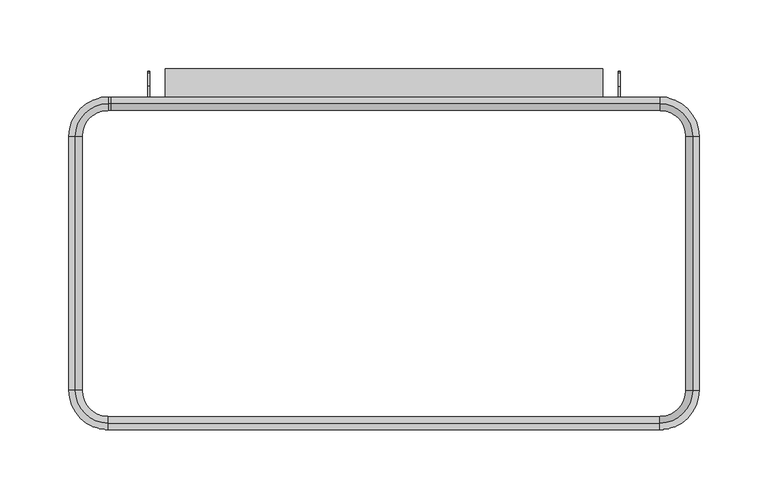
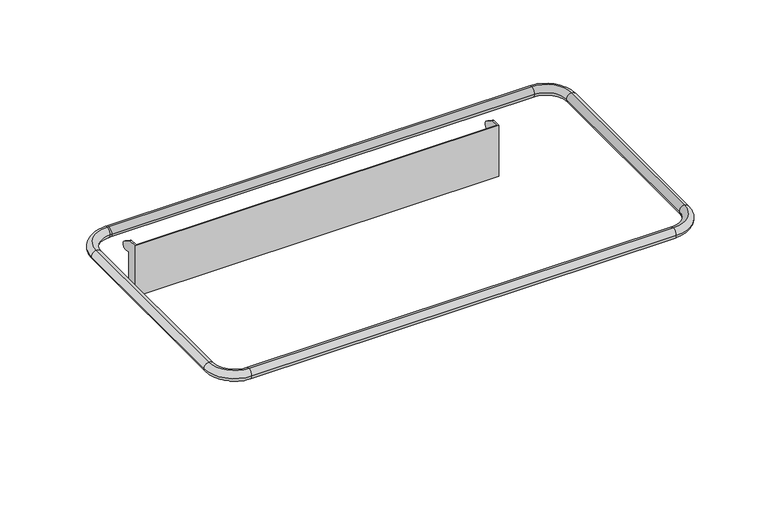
"""IFC4 building model written with IfcOpenShell, lengths in millimetres: furniture geometry."""

from ifc_helpers import new_model, si_unit, point, frame, origin, place, context, project, spatial, circle_curve, ellipse_curve, trimmed, source, transform, mapped, element, save
from ifc_brep_helpers import plane_surface, cylinder_surface, revolved_surface, advanced_brep


def furniture_c79063a3(model_context):
    return source(origin(), model_context, "Body", "AdvancedBrep", [
        advanced_brep(
        [(-200.025, 74.6851276, 1703.5272), (-223.8375, 50.8726276, 1703.5272), (-219.075, 50.8726276, 1698.7647), (-200.025, 69.9226276, 1698.7647), (-200.025, 79.4476276, 1698.7647), (-228.6, 50.8726276, 1698.7647), (-200.025, 74.6851276, 1694.0022), (-223.8375, 50.8726276, 1694.0022), (-198.2944343, 69.9226276, 1698.7647), (-198.2944343, 74.6851276, 1703.5272), (-198.2944343, 79.4476276, 1698.7647), (-198.2944343, 74.6851276, 1694.0022), (200.025, 69.9226276, 1698.7647), (200.025, 74.6851276, 1703.5272), (200.025, 79.4476276, 1698.7647), (200.025, 74.6851276, 1694.0022), (223.8375, 50.8726276, 1703.5272), (219.075, 50.8726276, 1698.7647), (228.6, 50.8726276, 1698.7647), (223.8375, 50.8726276, 1694.0022), (219.075, -133.2773724, 1698.7647), (223.8375, -133.2773724, 1703.5272), (228.6, -133.2773724, 1698.7647), (223.8375, -133.2773724, 1694.0022), (200.025, -157.0898724, 1703.5272), (200.025, -152.3273724, 1698.7647), (200.025, -161.8523724, 1698.7647), (200.025, -157.0898724, 1694.0022), (-200.025, -152.3273724, 1698.7647), (-200.025, -157.0898724, 1703.5272), (-200.025, -161.8523724, 1698.7647), (-200.025, -157.0898724, 1694.0022), (-223.8375, -133.2773724, 1703.5272), (-219.075, -133.2773724, 1698.7647), (-228.6, -133.2773724, 1698.7647), (-223.8375, -133.2773724, 1694.0022)],
        [
            (0, 1, circle_curve(frame((-200.025, 50.8726276, 1703.5272), z_axis=(0.0, 0.0, 1.0), x_axis=(-1.0, 0.0, 0.0)), 23.8125)),
            (1, 2, circle_curve(frame((-223.8375, 50.8726276, 1698.7647), z_axis=(0.0, 1.0, 0.0), x_axis=(-1.0, 0.0, 0.0)), 4.7625)),
            (2, 3, circle_curve(frame((-200.025, 50.8726276, 1698.7647), z_axis=(0.0, 0.0, -1.0), x_axis=(-1.0, 0.0, 0.0)), 19.05)),
            (3, 0, circle_curve(frame((-200.025, 74.6851276, 1698.7647), z_axis=(-1.0, 0.0, 0.0), x_axis=(0.0, 1.0, 0.0)), 4.7625)),
            (4, 5, circle_curve(frame((-200.025, 50.8726276, 1698.7647), z_axis=(0.0, 0.0, 1.0), x_axis=(-1.0, 0.0, 0.0)), 28.575)),
            (5, 1, circle_curve(frame((-223.8375, 50.8726276, 1698.7647), z_axis=(0.0, 1.0, 0.0), x_axis=(-1.0, 0.0, 0.0)), 4.7625)),
            (0, 4, circle_curve(frame((-200.025, 74.6851276, 1698.7647), z_axis=(-1.0, 0.0, 0.0), x_axis=(0.0, 1.0, 0.0)), 4.7625)),
            (6, 7, circle_curve(frame((-200.025, 50.8726276, 1694.0022), z_axis=(0.0, 0.0, 1.0), x_axis=(-1.0, 0.0, 0.0)), 23.8125)),
            (7, 5, circle_curve(frame((-223.8375, 50.8726276, 1698.7647), z_axis=(0.0, 1.0, 0.0), x_axis=(-1.0, 0.0, 0.0)), 4.7625)),
            (4, 6, circle_curve(frame((-200.025, 74.6851276, 1698.7647), z_axis=(-1.0, 0.0, 0.0), x_axis=(0.0, 1.0, 0.0)), 4.7625)),
            (2, 7, circle_curve(frame((-223.8375, 50.8726276, 1698.7647), z_axis=(0.0, 1.0, 0.0), x_axis=(-1.0, 0.0, 0.0)), 4.7625)),
            (6, 3, circle_curve(frame((-200.025, 74.6851276, 1698.7647), z_axis=(-1.0, 0.0, 0.0), x_axis=(0.0, 1.0, 0.0)), 4.7625)),
            (3, 8),
            (8, 9, circle_curve(frame((-198.2944343, 74.6851276, 1698.7647), z_axis=(-1.0, 0.0, 0.0), x_axis=(0.0, 1.0, 0.0)), 4.7625)),
            (9, 0),
            (9, 10, circle_curve(frame((-198.2944343, 74.6851276, 1698.7647), z_axis=(-1.0, 0.0, 0.0), x_axis=(0.0, 1.0, 0.0)), 4.7625)),
            (10, 4),
            (10, 11, circle_curve(frame((-198.2944343, 74.6851276, 1698.7647), z_axis=(-1.0, 0.0, 0.0), x_axis=(0.0, 1.0, 0.0)), 4.7625)),
            (11, 6),
            (11, 8, circle_curve(frame((-198.2944343, 74.6851276, 1698.7647), z_axis=(-1.0, 0.0, 0.0), x_axis=(0.0, 1.0, 0.0)), 4.7625)),
            (8, 12),
            (12, 13, circle_curve(frame((200.025, 74.6851276, 1698.7647), z_axis=(-1.0, 0.0, 0.0), x_axis=(0.0, 1.0, 0.0)), 4.7625)),
            (13, 9),
            (13, 14, circle_curve(frame((200.025, 74.6851276, 1698.7647), z_axis=(-1.0, 0.0, 0.0), x_axis=(0.0, 1.0, 0.0)), 4.7625)),
            (14, 10),
            (14, 15, circle_curve(frame((200.025, 74.6851276, 1698.7647), z_axis=(-1.0, 0.0, 0.0), x_axis=(0.0, 1.0, 0.0)), 4.7625)),
            (15, 11),
            (15, 12, circle_curve(frame((200.025, 74.6851276, 1698.7647), z_axis=(-1.0, 0.0, 0.0), x_axis=(0.0, 1.0, 0.0)), 4.7625)),
            (16, 13, circle_curve(frame((200.025, 50.8726276, 1703.5272), z_axis=(0.0, 0.0, 1.0), x_axis=(0.0, 1.0, 0.0)), 23.8125)),
            (12, 17, circle_curve(frame((200.025, 50.8726276, 1698.7647), z_axis=(0.0, 0.0, -1.0), x_axis=(0.0, 1.0, 0.0)), 19.05)),
            (17, 16, circle_curve(frame((223.8375, 50.8726276, 1698.7647), z_axis=(0.0, 1.0, 0.0), x_axis=(1.0, 0.0, 0.0)), 4.7625)),
            (18, 14, circle_curve(frame((200.025, 50.8726276, 1698.7647), z_axis=(0.0, 0.0, 1.0), x_axis=(0.0, 1.0, 0.0)), 28.575)),
            (16, 18, circle_curve(frame((223.8375, 50.8726276, 1698.7647), z_axis=(0.0, 1.0, 0.0), x_axis=(1.0, 0.0, 0.0)), 4.7625)),
            (19, 15, circle_curve(frame((200.025, 50.8726276, 1694.0022), z_axis=(0.0, 0.0, 1.0), x_axis=(0.0, 1.0, 0.0)), 23.8125)),
            (18, 19, circle_curve(frame((223.8375, 50.8726276, 1698.7647), z_axis=(0.0, 1.0, 0.0), x_axis=(1.0, 0.0, 0.0)), 4.7625)),
            (19, 17, circle_curve(frame((223.8375, 50.8726276, 1698.7647), z_axis=(0.0, 1.0, 0.0), x_axis=(1.0, 0.0, 0.0)), 4.7625)),
            (17, 20),
            (20, 21, circle_curve(frame((223.8375, -133.2773724, 1698.7647), z_axis=(0.0, 1.0, 0.0), x_axis=(1.0, 0.0, 0.0)), 4.7625)),
            (21, 16),
            (21, 22, circle_curve(frame((223.8375, -133.2773724, 1698.7647), z_axis=(0.0, 1.0, 0.0), x_axis=(1.0, 0.0, 0.0)), 4.7625)),
            (22, 18),
            (22, 23, circle_curve(frame((223.8375, -133.2773724, 1698.7647), z_axis=(0.0, 1.0, 0.0), x_axis=(1.0, 0.0, 0.0)), 4.7625)),
            (23, 19),
            (23, 20, circle_curve(frame((223.8375, -133.2773724, 1698.7647), z_axis=(0.0, 1.0, 0.0), x_axis=(1.0, 0.0, 0.0)), 4.7625)),
            (24, 21, circle_curve(frame((200.025, -133.2773724, 1703.5272), z_axis=(0.0, 0.0, 1.0), x_axis=(1.0, 0.0, 0.0)), 23.8125)),
            (20, 25, circle_curve(frame((200.025, -133.2773724, 1698.7647), z_axis=(0.0, 0.0, -1.0), x_axis=(1.0, 0.0, 0.0)), 19.05)),
            (25, 24, circle_curve(frame((200.025, -157.0898724, 1698.7647), z_axis=(1.0, 0.0, 0.0), x_axis=(0.0, -1.0, 0.0)), 4.7625)),
            (26, 22, circle_curve(frame((200.025, -133.2773724, 1698.7647), z_axis=(0.0, 0.0, 1.0), x_axis=(1.0, 0.0, 0.0)), 28.575)),
            (24, 26, circle_curve(frame((200.025, -157.0898724, 1698.7647), z_axis=(1.0, 0.0, 0.0), x_axis=(0.0, -1.0, 0.0)), 4.7625)),
            (27, 23, circle_curve(frame((200.025, -133.2773724, 1694.0022), z_axis=(0.0, 0.0, 1.0), x_axis=(1.0, 0.0, 0.0)), 23.8125)),
            (26, 27, circle_curve(frame((200.025, -157.0898724, 1698.7647), z_axis=(1.0, 0.0, 0.0), x_axis=(0.0, -1.0, 0.0)), 4.7625)),
            (27, 25, circle_curve(frame((200.025, -157.0898724, 1698.7647), z_axis=(1.0, 0.0, 0.0), x_axis=(0.0, -1.0, 0.0)), 4.7625)),
            (25, 28),
            (28, 29, circle_curve(frame((-200.025, -157.0898724, 1698.7647), z_axis=(1.0, 0.0, 0.0), x_axis=(0.0, -1.0, 0.0)), 4.7625)),
            (29, 24),
            (29, 30, circle_curve(frame((-200.025, -157.0898724, 1698.7647), z_axis=(1.0, 0.0, 0.0), x_axis=(0.0, -1.0, 0.0)), 4.7625)),
            (30, 26),
            (30, 31, circle_curve(frame((-200.025, -157.0898724, 1698.7647), z_axis=(1.0, 0.0, 0.0), x_axis=(0.0, -1.0, 0.0)), 4.7625)),
            (31, 27),
            (31, 28, circle_curve(frame((-200.025, -157.0898724, 1698.7647), z_axis=(1.0, 0.0, 0.0), x_axis=(0.0, -1.0, 0.0)), 4.7625)),
            (32, 29, circle_curve(frame((-200.025, -133.2773724, 1703.5272), z_axis=(0.0, 0.0, 1.0), x_axis=(0.0, -1.0, 0.0)), 23.8125)),
            (28, 33, circle_curve(frame((-200.025, -133.2773724, 1698.7647), z_axis=(0.0, 0.0, -1.0), x_axis=(0.0, -1.0, 0.0)), 19.05)),
            (33, 32, circle_curve(frame((-223.8375, -133.2773724, 1698.7647), z_axis=(0.0, -1.0, 0.0), x_axis=(-1.0, 0.0, 0.0)), 4.7625)),
            (34, 30, circle_curve(frame((-200.025, -133.2773724, 1698.7647), z_axis=(0.0, 0.0, 1.0), x_axis=(0.0, -1.0, 0.0)), 28.575)),
            (32, 34, circle_curve(frame((-223.8375, -133.2773724, 1698.7647), z_axis=(0.0, -1.0, 0.0), x_axis=(-1.0, 0.0, 0.0)), 4.7625)),
            (35, 31, circle_curve(frame((-200.025, -133.2773724, 1694.0022), z_axis=(0.0, 0.0, 1.0), x_axis=(0.0, -1.0, 0.0)), 23.8125)),
            (34, 35, circle_curve(frame((-223.8375, -133.2773724, 1698.7647), z_axis=(0.0, -1.0, 0.0), x_axis=(-1.0, 0.0, 0.0)), 4.7625)),
            (35, 33, circle_curve(frame((-223.8375, -133.2773724, 1698.7647), z_axis=(0.0, -1.0, 0.0), x_axis=(-1.0, 0.0, 0.0)), 4.7625)),
            (33, 2),
            (1, 32),
            (5, 34),
            (7, 35),
        ],
        [
            revolved_surface(trimmed(ellipse_curve(frame((-223.8375, 50.8726276, 1698.7647), z_axis=(0.0, -1.0, 0.0), x_axis=(-1.0, 0.0, 0.0)), 4.7625, 4.7625), [point((-219.075, 50.8726276, 1698.7647))], [point((-223.8375, 50.8726276, 1703.5272))], True, "CARTESIAN"), (-200.025, 50.8726276, 0.0), (0.0, 0.0, -1.0)),
            revolved_surface(trimmed(ellipse_curve(frame((-223.8375, 50.8726276, 1698.7647), z_axis=(0.0, -1.0, 0.0), x_axis=(-1.0, 0.0, 0.0)), 4.7625, 4.7625), [point((-223.8375, 50.8726276, 1703.5272))], [point((-228.6, 50.8726276, 1698.7647))], True, "CARTESIAN"), (-200.025, 50.8726276, 0.0), (0.0, 0.0, -1.0)),
            revolved_surface(trimmed(ellipse_curve(frame((-223.8375, 50.8726276, 1698.7647), z_axis=(0.0, -1.0, 0.0), x_axis=(-1.0, 0.0, 0.0)), 4.7625, 4.7625), [point((-228.6, 50.8726276, 1698.7647))], [point((-223.8375, 50.8726276, 1694.0022))], True, "CARTESIAN"), (-200.025, 50.8726276, 0.0), (0.0, 0.0, -1.0)),
            revolved_surface(trimmed(ellipse_curve(frame((-223.8375, 50.8726276, 1698.7647), z_axis=(0.0, -1.0, 0.0), x_axis=(-1.0, 0.0, 0.0)), 4.7625, 4.7625), [point((-223.8375, 50.8726276, 1694.0022))], [point((-219.075, 50.8726276, 1698.7647))], True, "CARTESIAN"), (-200.025, 50.8726276, 0.0), (0.0, 0.0, -1.0)),
            cylinder_surface(frame((-200.025, 74.6851276, 1698.7647), z_axis=(-1.0, 0.0, 0.0), x_axis=(0.0, 1.0, 0.0)), 4.7625),
            cylinder_surface(frame((-198.2944343, 74.6851276, 1698.7647), z_axis=(-1.0, 0.0, 0.0), x_axis=(0.0, 1.0, 0.0)), 4.7625),
            revolved_surface(trimmed(ellipse_curve(frame((200.025, 74.6851276, 1698.7647), z_axis=(-1.0, 0.0, 0.0), x_axis=(0.0, 1.0, 0.0)), 4.7625, 4.7625), [point((200.025, 69.9226276, 1698.7647))], [point((200.025, 74.6851276, 1703.5272))], True, "CARTESIAN"), (200.025, 50.8726276, 0.0), (0.0, 0.0, -1.0)),
            revolved_surface(trimmed(ellipse_curve(frame((200.025, 74.6851276, 1698.7647), z_axis=(-1.0, 0.0, 0.0), x_axis=(0.0, 1.0, 0.0)), 4.7625, 4.7625), [point((200.025, 74.6851276, 1703.5272))], [point((200.025, 79.4476276, 1698.7647))], True, "CARTESIAN"), (200.025, 50.8726276, 0.0), (0.0, 0.0, -1.0)),
            revolved_surface(trimmed(ellipse_curve(frame((200.025, 74.6851276, 1698.7647), z_axis=(-1.0, 0.0, 0.0), x_axis=(0.0, 1.0, 0.0)), 4.7625, 4.7625), [point((200.025, 79.4476276, 1698.7647))], [point((200.025, 74.6851276, 1694.0022))], True, "CARTESIAN"), (200.025, 50.8726276, 0.0), (0.0, 0.0, -1.0)),
            revolved_surface(trimmed(ellipse_curve(frame((200.025, 74.6851276, 1698.7647), z_axis=(-1.0, 0.0, 0.0), x_axis=(0.0, 1.0, 0.0)), 4.7625, 4.7625), [point((200.025, 74.6851276, 1694.0022))], [point((200.025, 69.9226276, 1698.7647))], True, "CARTESIAN"), (200.025, 50.8726276, 0.0), (0.0, 0.0, -1.0)),
            cylinder_surface(frame((223.8375, 50.8726276, 1698.7647), z_axis=(0.0, 1.0, 0.0), x_axis=(1.0, 0.0, 0.0)), 4.7625),
            revolved_surface(trimmed(ellipse_curve(frame((223.8375, -133.2773724, 1698.7647), z_axis=(0.0, 1.0, 0.0), x_axis=(1.0, 0.0, 0.0)), 4.7625, 4.7625), [point((219.075, -133.2773724, 1698.7647))], [point((223.8375, -133.2773724, 1703.5272))], True, "CARTESIAN"), (200.025, -133.2773724, 0.0), (0.0, 0.0, -1.0)),
            revolved_surface(trimmed(ellipse_curve(frame((223.8375, -133.2773724, 1698.7647), z_axis=(0.0, 1.0, 0.0), x_axis=(1.0, 0.0, 0.0)), 4.7625, 4.7625), [point((223.8375, -133.2773724, 1703.5272))], [point((228.6, -133.2773724, 1698.7647))], True, "CARTESIAN"), (200.025, -133.2773724, 0.0), (0.0, 0.0, -1.0)),
            revolved_surface(trimmed(ellipse_curve(frame((223.8375, -133.2773724, 1698.7647), z_axis=(0.0, 1.0, 0.0), x_axis=(1.0, 0.0, 0.0)), 4.7625, 4.7625), [point((228.6, -133.2773724, 1698.7647))], [point((223.8375, -133.2773724, 1694.0022))], True, "CARTESIAN"), (200.025, -133.2773724, 0.0), (0.0, 0.0, -1.0)),
            revolved_surface(trimmed(ellipse_curve(frame((223.8375, -133.2773724, 1698.7647), z_axis=(0.0, 1.0, 0.0), x_axis=(1.0, 0.0, 0.0)), 4.7625, 4.7625), [point((223.8375, -133.2773724, 1694.0022))], [point((219.075, -133.2773724, 1698.7647))], True, "CARTESIAN"), (200.025, -133.2773724, 0.0), (0.0, 0.0, -1.0)),
            cylinder_surface(frame((200.025, -157.0898724, 1698.7647), z_axis=(1.0, 0.0, 0.0), x_axis=(0.0, -1.0, 0.0)), 4.7625),
            revolved_surface(trimmed(ellipse_curve(frame((-200.025, -157.0898724, 1698.7647), z_axis=(1.0, 0.0, 0.0), x_axis=(0.0, -1.0, 0.0)), 4.7625, 4.7625), [point((-200.025, -152.3273724, 1698.7647))], [point((-200.025, -157.0898724, 1703.5272))], True, "CARTESIAN"), (-200.025, -133.2773724, 0.0), (0.0, 0.0, -1.0)),
            revolved_surface(trimmed(ellipse_curve(frame((-200.025, -157.0898724, 1698.7647), z_axis=(1.0, 0.0, 0.0), x_axis=(0.0, -1.0, 0.0)), 4.7625, 4.7625), [point((-200.025, -157.0898724, 1703.5272))], [point((-200.025, -161.8523724, 1698.7647))], True, "CARTESIAN"), (-200.025, -133.2773724, 0.0), (0.0, 0.0, -1.0)),
            revolved_surface(trimmed(ellipse_curve(frame((-200.025, -157.0898724, 1698.7647), z_axis=(1.0, 0.0, 0.0), x_axis=(0.0, -1.0, 0.0)), 4.7625, 4.7625), [point((-200.025, -161.8523724, 1698.7647))], [point((-200.025, -157.0898724, 1694.0022))], True, "CARTESIAN"), (-200.025, -133.2773724, 0.0), (0.0, 0.0, -1.0)),
            revolved_surface(trimmed(ellipse_curve(frame((-200.025, -157.0898724, 1698.7647), z_axis=(1.0, 0.0, 0.0), x_axis=(0.0, -1.0, 0.0)), 4.7625, 4.7625), [point((-200.025, -157.0898724, 1694.0022))], [point((-200.025, -152.3273724, 1698.7647))], True, "CARTESIAN"), (-200.025, -133.2773724, 0.0), (0.0, 0.0, -1.0)),
            cylinder_surface(frame((-223.8375, -133.2773724, 1698.7647), z_axis=(0.0, -1.0, 0.0), x_axis=(-1.0, 0.0, 0.0)), 4.7625),
        ],
        [
            (0, [[1, 2, 3, 4]]),
            (1, [[5, 6, -1, 7]]),
            (2, [[8, 9, -5, 10]]),
            (3, [[-3, 11, -8, 12]]),
            (4, [[-4, 13, 14, 15]]),
            (4, [[-7, -15, 16, 17]]),
            (4, [[-10, -17, 18, 19]]),
            (4, [[-12, -19, 20, -13]]),
            (5, [[-14, 21, 22, 23]]),
            (5, [[-16, -23, 24, 25]]),
            (5, [[-18, -25, 26, 27]]),
            (5, [[-20, -27, 28, -21]]),
            (6, [[29, -22, 30, 31]]),
            (7, [[32, -24, -29, 33]]),
            (8, [[34, -26, -32, 35]]),
            (9, [[-30, -28, -34, 36]]),
            (10, [[-31, 37, 38, 39]]),
            (10, [[-33, -39, 40, 41]]),
            (10, [[-35, -41, 42, 43]]),
            (10, [[-36, -43, 44, -37]]),
            (11, [[45, -38, 46, 47]]),
            (12, [[48, -40, -45, 49]]),
            (13, [[50, -42, -48, 51]]),
            (14, [[-46, -44, -50, 52]]),
            (15, [[-47, 53, 54, 55]]),
            (15, [[-49, -55, 56, 57]]),
            (15, [[-51, -57, 58, 59]]),
            (15, [[-52, -59, 60, -53]]),
            (16, [[61, -54, 62, 63]]),
            (17, [[64, -56, -61, 65]]),
            (18, [[66, -58, -64, 67]]),
            (19, [[-62, -60, -66, 68]]),
            (20, [[-63, 69, -2, 70]]),
            (20, [[-65, -70, -6, 71]]),
            (20, [[-67, -71, -9, 72]]),
            (20, [[-68, -72, -11, -69]]),
        ],
    ),
        advanced_brep(
        [(169.8625, 87.1833453, 1672.56968), (169.8625, 96.7718787, 1665.96686), (169.8625, 93.062402, 1659.4507062), (169.8625, 88.7708455, 1660.6634296), (169.8625, 88.7708455, 1631.2946815), (169.8625, 98.2958455, 1631.2946815), (169.8625, 98.2958455, 1621.7696815), (169.8625, 79.4476276, 1621.7696815), (169.8625, 79.4476276, 1672.56968), (171.45, 87.1833453, 1672.56968), (171.45, 78.4520954, 1672.56968), (171.45, 78.4520954, 1621.7696815), (171.45, 98.2958455, 1621.7696815), (171.45, 98.2958455, 1631.2946815), (171.45, 88.7708455, 1631.2946815), (171.45, 88.7708455, 1660.6634296), (171.45, 93.062402, 1659.4507062), (171.45, 96.7718787, 1665.96686), (-171.45, 78.4520954, 1621.7696815), (-171.45, 98.2958455, 1621.7696815), (-169.8625, 98.2958455, 1621.7696815), (-169.8625, 79.4476276, 1621.7696815), (-171.45, 78.4520954, 1672.56968), (-169.8625, 79.4476276, 1672.56968), (-169.8625, 87.1833453, 1672.56968), (-171.45, 87.1833453, 1672.56968), (-158.75, 79.4476276, 1625.7397015), (-158.75, 79.4476276, 1624.1522015), (158.75, 79.4476276, 1624.1522015), (158.75, 79.4476276, 1625.7397015), (-158.75, 99.8833455, 1625.7397015), (-158.75, 99.8833455, 1624.1522015), (158.75, 99.8833455, 1625.7397015), (158.75, 99.8833455, 1624.1522015), (-171.45, 96.7718787, 1665.96686), (-171.45, 93.062402, 1659.4507062), (-171.45, 88.7708455, 1660.6634296), (-171.45, 88.7708455, 1631.2946815), (-171.45, 98.2958455, 1631.2946815), (-169.8625, 98.2958455, 1631.2946815), (-169.8625, 88.7708455, 1631.2946815), (-169.8625, 88.7708455, 1660.6634296), (-169.8625, 93.062402, 1659.4507062), (-169.8625, 96.7718787, 1665.96686)],
        [
            (0, 1),
            (1, 2, circle_curve(frame((169.8625, 94.1125186, 1663.1668333), z_axis=(-1.0, 0.0, 0.0), x_axis=(0.0, 1.0, 0.0)), 3.8616507)),
            (2, 3),
            (3, 4),
            (4, 5),
            (5, 6),
            (6, 7),
            (7, 8),
            (8, 0),
            (9, 10),
            (10, 11),
            (11, 12),
            (12, 13),
            (13, 14),
            (14, 15),
            (15, 16),
            (16, 17, circle_curve(frame((171.45, 94.1125186, 1663.1668333), z_axis=(1.0, 0.0, 0.0), x_axis=(0.0, 1.0, 0.0)), 3.8616507)),
            (17, 9),
            (0, 9),
            (17, 1),
            (16, 2),
            (15, 3),
            (14, 4),
            (13, 5),
            (12, 6),
            (11, 18),
            (18, 19),
            (19, 20),
            (20, 21),
            (21, 7),
            (10, 22),
            (22, 18),
            (8, 23),
            (23, 24),
            (24, 25),
            (25, 22),
            (21, 23),
            (26, 27),
            (27, 28),
            (28, 29),
            (29, 26),
            (30, 31),
            (31, 27),
            (26, 30),
            (32, 29),
            (28, 33),
            (33, 32),
            (30, 32),
            (33, 31),
            (25, 34),
            (34, 35, circle_curve(frame((-171.45, 94.1125186, 1663.1668333), z_axis=(-1.0, 0.0, 0.0), x_axis=(0.0, 1.0, 0.0)), 3.8616507)),
            (35, 36),
            (36, 37),
            (37, 38),
            (38, 19),
            (20, 39),
            (39, 40),
            (40, 41),
            (41, 42),
            (42, 43, circle_curve(frame((-169.8625, 94.1125186, 1663.1668333), z_axis=(1.0, 0.0, 0.0), x_axis=(0.0, 1.0, 0.0)), 3.8616507)),
            (43, 24),
            (43, 34),
            (42, 35),
            (41, 36),
            (40, 37),
            (39, 38),
        ],
        [
            plane_surface(frame((169.8625, 78.4520954, 0.0), z_axis=(-1.0, 0.0, 0.0), x_axis=(0.0, 0.0, 1.0))),
            plane_surface(frame((171.45, 78.4520954, 0.0), z_axis=(1.0, 0.0, 0.0), x_axis=(0.0, 0.0, 1.0))),
            plane_surface(frame((169.8625, 87.1833453, 1672.56968), z_axis=(0.0, 0.5671529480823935, 0.8236124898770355), x_axis=(1.0, 0.0, 0.0))),
            cylinder_surface(frame((169.8625, 94.1125186, 1663.1668333), z_axis=(-1.0, 0.0, 0.0), x_axis=(0.0, 1.0, 0.0)), 3.8616507),
            plane_surface(frame((169.8625, 93.062402, 1659.4507062), z_axis=(0.0, -0.2719346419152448, -0.9623157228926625), x_axis=(1.0, 0.0, 0.0))),
            plane_surface(frame((169.8625, 88.7708455, 1660.6634296), z_axis=(0.0, 1.0, 0.0), x_axis=(1.0, 0.0, 0.0))),
            plane_surface(frame((169.8625, 88.7708455, 1631.2946815), z_axis=(0.0, 0.0, 1.0), x_axis=(1.0, 0.0, 0.0))),
            plane_surface(frame((169.8625, 98.2958455, 1631.2946815), z_axis=(0.0, 1.0, 0.0), x_axis=(1.0, 0.0, 0.0))),
            plane_surface(frame((169.8625, 98.2958455, 1621.7696815), z_axis=(0.0, 0.0, -1.0), x_axis=(1.0, 0.0, 0.0))),
            plane_surface(frame((169.8625, 78.4520954, 1621.7696815), z_axis=(0.0, -1.0, 0.0), x_axis=(1.0, 0.0, 0.0))),
            plane_surface(frame((169.8625, 78.4520954, 1672.56968), z_axis=(0.0, 0.0, 1.0), x_axis=(1.0, 0.0, 0.0))),
            plane_surface(frame((-169.8625, 79.4476276, 1672.56968), z_axis=(0.0, 1.0, 0.0), x_axis=(1.0, 0.0, 0.0))),
            plane_surface(frame((-158.75, 79.4476276, 0.0), z_axis=(-1.0, 0.0, 0.0), x_axis=(0.0, 0.0, 1.0))),
            plane_surface(frame((158.75, 79.4476276, 0.0), z_axis=(1.0, 0.0, 0.0), x_axis=(0.0, 0.0, 1.0))),
            plane_surface(frame((-158.75, 99.8833455, 1625.7397015), z_axis=(0.0, 1.0, 0.0), x_axis=(1.0, 0.0, 0.0))),
            plane_surface(frame((-158.75, 99.8833455, 1624.1522015), z_axis=(0.0, 0.0, -1.0), x_axis=(1.0, 0.0, 0.0))),
            plane_surface(frame((-158.75, 79.4476276, 1625.7397015), z_axis=(0.0, 0.0, 1.0), x_axis=(1.0, 0.0, 0.0))),
            plane_surface(frame((-171.45, 78.4520954, 0.0), z_axis=(-1.0, 0.0, 0.0), x_axis=(0.0, 0.0, 1.0))),
            plane_surface(frame((-169.8625, 78.4520954, 0.0), z_axis=(1.0, 0.0, 0.0), x_axis=(0.0, 0.0, 1.0))),
            plane_surface(frame((-171.45, 87.1833453, 1672.56968), z_axis=(0.0, 0.5671529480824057, 0.8236124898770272), x_axis=(1.0, 0.0, 0.0))),
            cylinder_surface(frame((-171.45, 94.1125186, 1663.1668333), z_axis=(-1.0, 0.0, 0.0), x_axis=(0.0, 1.0, 0.0)), 3.8616507),
            plane_surface(frame((-171.45, 93.062402, 1659.4507062), z_axis=(0.0, -0.2719346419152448, -0.9623157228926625), x_axis=(1.0, 0.0, 0.0))),
            plane_surface(frame((-171.45, 88.7708455, 1660.6634296), z_axis=(0.0, 1.0, 0.0), x_axis=(1.0, 0.0, 0.0))),
            plane_surface(frame((-171.45, 88.7708455, 1631.2946815), z_axis=(0.0, 0.0, 1.0), x_axis=(1.0, 0.0, 0.0))),
            plane_surface(frame((-171.45, 98.2958455, 1631.2946815), z_axis=(0.0, 1.0, 0.0), x_axis=(1.0, 0.0, 0.0))),
        ],
        [
            (0, [[1, 2, 3, 4, 5, 6, 7, 8, 9]]),
            (1, [[10, 11, 12, 13, 14, 15, 16, 17, 18]]),
            (2, [[-1, 19, -18, 20]]),
            (3, [[-2, -20, -17, 21]]),
            (4, [[-3, -21, -16, 22]]),
            (5, [[-4, -22, -15, 23]]),
            (6, [[-5, -23, -14, 24]]),
            (7, [[-6, -24, -13, 25]]),
            (8, [[-12, 26, 27, 28, 29, 30, -7, -25]]),
            (9, [[-26, -11, 31, 32]]),
            (10, [[-31, -10, -19, -9, 33, 34, 35, 36]]),
            (11, [[-33, -8, -30, 37], [38, 39, 40, 41]]),
            (12, [[42, 43, -38, 44]]),
            (13, [[45, -40, 46, 47]]),
            (14, [[-42, 48, -47, 49]]),
            (15, [[-43, -49, -46, -39]]),
            (16, [[-44, -41, -45, -48]]),
            (17, [[50, 51, 52, 53, 54, 55, -27, -32, -36]]),
            (18, [[56, 57, 58, 59, 60, 61, -34, -37, -29]]),
            (19, [[-50, -35, -61, 62]]),
            (20, [[-51, -62, -60, 63]]),
            (21, [[-52, -63, -59, 64]]),
            (22, [[-53, -64, -58, 65]]),
            (23, [[-54, -65, -57, 66]]),
            (24, [[-55, -66, -56, -28]]),
        ],
    ),
    ])


if __name__ == "__main__":
    model = new_model("IFC4")
    model_context = context("Model", 3, world=origin())
    ifc_project = project(units=[si_unit("LENGTHUNIT", "METRE", prefix="MILLI")], contexts=[model_context])
    site = spatial("IfcSite", under=ifc_project)
    building = spatial("IfcBuilding", under=site)
    placement = place(None, origin())
    furniture_shape = furniture_c79063a3(model_context)
    element("IfcFurniture", 1, ObjectType="HermanMiller_Carts_CT720_SupplyBasket : 5\"H x 9\"D x 18\"W Supply Basket", at=placement, inside=building, context=model_context, shape_type="MappedRepresentation", body=[
        mapped(furniture_shape, transform((0.0, 0.0, 0.0), x_axis=(1.0, 0.0, 0.0), y_axis=(0.0, 1.0, 0.0), z_axis=(0.0, 0.0, 1.0))),
    ])
    save(model, "model.ifc")
